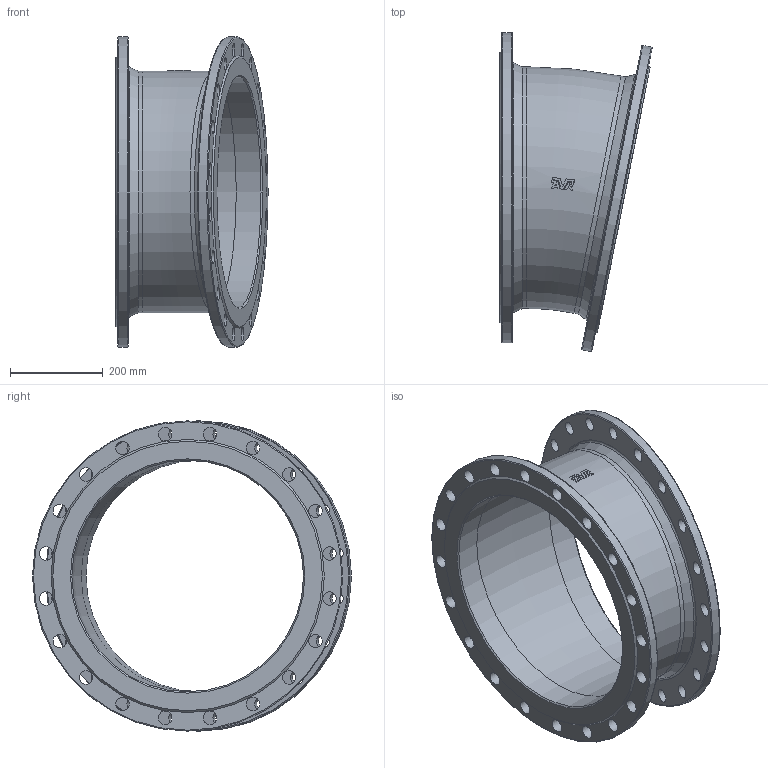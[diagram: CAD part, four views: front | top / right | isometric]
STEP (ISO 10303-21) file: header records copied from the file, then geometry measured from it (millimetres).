
FILE_DESCRIPTION (( 'STEP AP203' ), '1' );
FILE_NAME ('O_712_0110_DN500_0X_REV01.step', '2024-08-15T09:10:45', ( '' ), ( '' ), 'SwSTEP 2.0', 'SolidWorks 2022', '' );
FILE_SCHEMA (( 'CONFIG_CONTROL_DESIGN' ));
Length unit declared in the file: millimetre
Products named in the file (1): O_712_0110_DN500_0X_REV01
Bounding box: 328.46 x 688.75 x 670 mm (x, y, z)
Volume: 11187108.4 mm3; surface area: 1458630.3 mm2
Topology: 1 solids, 1 shells, 107 faces, 322 edges, 225 vertices
Faces by surface type: cylinder 48, plane 41, torus 12, cone 6
Full cylindrical faces by diameter (mm): 29 x40, 500 x2, 522 x2, 670 x2
Entity records: 3354 total; most frequent: CARTESIAN_POINT 781, DIRECTION 465, ORIENTED_EDGE 434, EDGE_LOOP 257, EDGE_CURVE 217, AXIS2_PLACEMENT_3D 214, VERTEX_POINT 180, FACE_OUTER_BOUND 161
